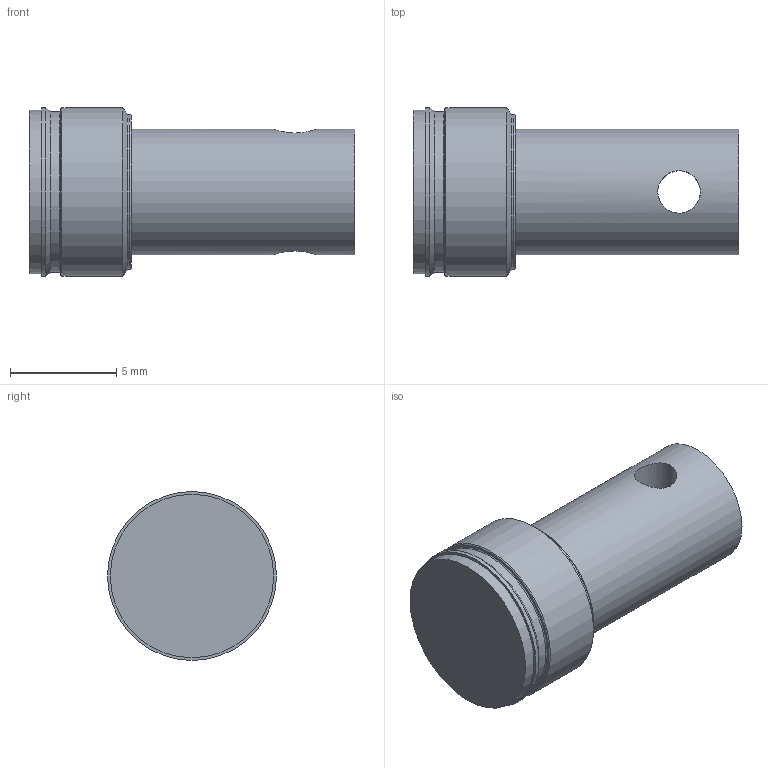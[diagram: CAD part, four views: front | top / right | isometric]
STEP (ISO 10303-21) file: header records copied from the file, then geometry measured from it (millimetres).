
FILE_DESCRIPTION(/* description */ ('QRVF800XXXXS'),/* implementation_level */ '2;1');
FILE_NAME(/* name */ '\\ABSOLUTE\SmWork\Vernon\QRVF800XXXXS.stp',/* time_stamp */ '2026-03-16T07:44:10-04:00',/* author */ ('VernonJ'),/* organization */ (''),/* preprocessor_version */ 'ST-DEVELOPER v18.1',/* originating_system */ 'Autodesk Inventor 2020',/* authorisation */ '');
FILE_SCHEMA (('AUTOMOTIVE_DESIGN { 1 0 10303 214 3 1 1 }'));
Length unit declared in the file: millimetre
Products named in the file (1): QRVF800XXXXS
Bounding box: 15.3 x 7.95 x 7.95 mm (x, y, z)
Volume: 499.6 mm3; surface area: 443.3 mm2
Topology: 1 solids, 1 shells, 17 faces, 49 edges, 37 vertices
Faces by surface type: cylinder 7, plane 5, torus 3, cone 2
Full cylindrical faces by diameter (mm): 2 x1, 5.9 x1, 7.25 x1, 7.53 x1, 7.69 x1, 7.95 x2
Entity records: 708 total; most frequent: CARTESIAN_POINT 172, DIRECTION 117, ORIENTED_EDGE 98, AXIS2_PLACEMENT_3D 54, EDGE_CURVE 49, VERTEX_POINT 37, CIRCLE 36, EDGE_LOOP 22
